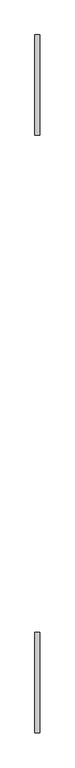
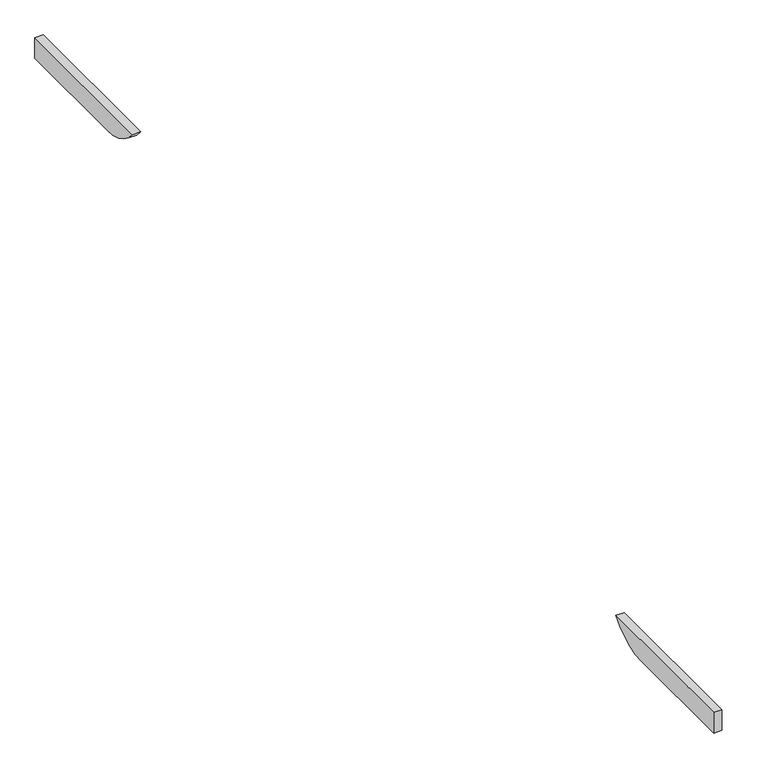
"""IFC4 building model written with IfcOpenShell, lengths in millimetres: proxy geometry, Modelos genéricos 122 : Modelos genéricos 2."""

from ifc_helpers import new_model, si_unit, point, frame, frame_2d, origin, place, context, project, spatial, polyline, circle_curve, trimmed, segment, composite_curve, outline, extrude, source, transform, mapped, element, save


def generic_models_0869e14e(model_context):
    return source(origin(), model_context, "Body", "SweptSolid", [
        extrude(outline(composite_curve([segment(polyline([(-2331.3761835, 2840.0), (-2331.3761835, 3000.0), (-1101.3761835, 3000.0)]), True, "CONTINUOUS"), segment(trimmed(circle_curve(frame_2d((-1421.3761835, 3240.0)), 400.0), [point((-1101.3761835, 3000.0))], [point((-1421.3761835, 2840.0))], False, "CARTESIAN"), True, "CONTINUOUS"), segment(polyline([(-1421.3761835, 2840.0), (-2331.3761835, 2840.0)]), True, "CONTINUOUS")], self_intersect=False)), frame((66223.4472467, 0.0, 0.0), z_axis=(1.0, 0.0, 0.0), x_axis=(0.0, 1.0, 0.0)), (0.0, 0.0, 1.0), 60.0),
        extrude(outline(composite_curve([segment(polyline([(6228.6238165, 2840.0), (5318.6238165, 2840.0)]), True, "CONTINUOUS"), segment(trimmed(circle_curve(frame_2d((5318.6238165, 3240.0)), 400.0), [point((5318.6238165, 2840.0))], [point((4998.6238165, 3000.0))], False, "CARTESIAN"), True, "CONTINUOUS"), segment(polyline([(4998.6238165, 3000.0), (6228.6238165, 3000.0), (6228.6238165, 2840.0)]), True, "CONTINUOUS")], self_intersect=False)), frame((66223.4472467, 0.0, 0.0), z_axis=(1.0, 0.0, 0.0), x_axis=(0.0, 1.0, 0.0)), (0.0, 0.0, 1.0), 60.0),
    ])


if __name__ == "__main__":
    model = new_model("IFC4")
    model_context = context("Model", 3, world=origin())
    ifc_project = project(units=[si_unit("LENGTHUNIT", "METRE", prefix="MILLI")], contexts=[model_context])
    site = spatial("IfcSite", under=ifc_project)
    building = spatial("IfcBuilding", under=site)
    placement = place(None, origin())
    generic_models_shape = generic_models_0869e14e(model_context)
    element("IfcBuildingElementProxy", 1, Name="Modelos genéricos 122 : Modelos genéricos 2", ObjectType="Modelos genéricos 122 : Modelos genéricos 2", at=placement, inside=building, context=model_context, shape_type="MappedRepresentation", body=[
        mapped(generic_models_shape, transform((0.0, 0.0, 0.0), x_axis=(1.0, 0.0, 0.0), y_axis=(0.0, 1.0, 0.0), z_axis=(0.0, 0.0, 1.0))),
    ])
    save(model, "model.ifc")
